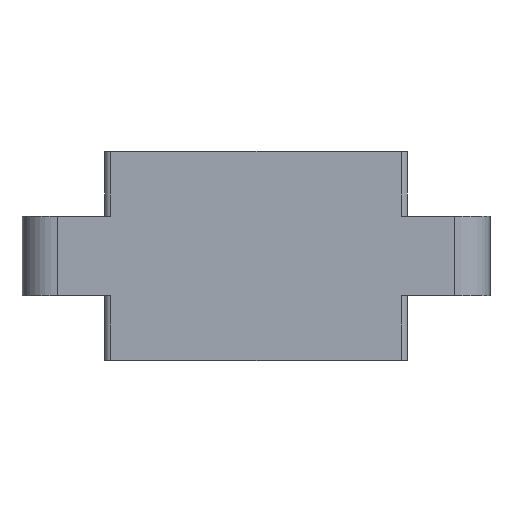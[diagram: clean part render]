
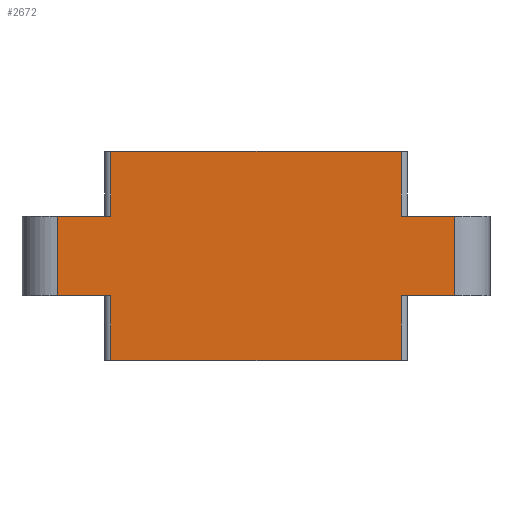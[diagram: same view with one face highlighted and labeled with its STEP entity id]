
A CAD part, top view. The second image highlights one B-rep face of the part: STEP entity #2672.
In plain terms, the highlighted planar face has unit normal (0, 0, 1).
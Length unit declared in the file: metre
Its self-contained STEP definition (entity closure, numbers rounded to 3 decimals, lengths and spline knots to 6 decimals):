
#25=CARTESIAN_POINT('',(0.007768,0.002636,0.02415));
#26=VERTEX_POINT('',#25);
#44=CARTESIAN_POINT('',(0.007768,0.005736,0.02415));
#45=VERTEX_POINT('',#44);
#48=CARTESIAN_POINT('',(0.007768,-0.001164,0.02415));
#49=DIRECTION('',(0.,1.,0.));
#50=VECTOR('',#49,1.);
#51=LINE('',#48,#50);
#52=EDGE_CURVE('',#26,#45,#51,.T.);
#192=CARTESIAN_POINT('',(0.000818,0.002636,0.02415));
#193=DIRECTION('',(1.,0.,0.));
#194=VECTOR('',#193,1.);
#195=LINE('',#192,#194);
#196=CARTESIAN_POINT('',(0.010318,0.002636,0.02415));
#197=VERTEX_POINT('',#196);
#198=EDGE_CURVE('',#26,#197,#195,.T.);
#337=CARTESIAN_POINT('',(0.010318,-0.001164,0.02415));
#338=VERTEX_POINT('',#337);
#341=CARTESIAN_POINT('',(0.000818,-0.001164,0.02415));
#342=DIRECTION('',(1.,0.,0.));
#343=VECTOR('',#342,1.);
#344=LINE('',#341,#343);
#345=CARTESIAN_POINT('',(0.007768,-0.001164,0.02415));
#346=VERTEX_POINT('',#345);
#347=EDGE_CURVE('',#346,#338,#344,.T.);
#2158=CARTESIAN_POINT('',(-0.008682,0.002636,0.02415));
#2159=VERTEX_POINT('',#2158);
#2162=CARTESIAN_POINT('',(-0.006132,0.002636,0.02415));
#2163=DIRECTION('',(1.,0.,0.));
#2164=VECTOR('',#2163,1.);
#2165=LINE('',#2162,#2164);
#2166=CARTESIAN_POINT('',(-0.006132,0.002636,0.02415));
#2167=VERTEX_POINT('',#2166);
#2168=EDGE_CURVE('',#2159,#2167,#2165,.T.);
#2420=CARTESIAN_POINT('',(-0.006132,-0.001164,0.02415));
#2421=VERTEX_POINT('',#2420);
#2424=CARTESIAN_POINT('',(-0.006132,-0.001164,0.02415));
#2425=DIRECTION('',(1.,0.,0.));
#2426=VECTOR('',#2425,1.);
#2427=LINE('',#2424,#2426);
#2428=CARTESIAN_POINT('',(-0.008682,-0.001164,0.02415));
#2429=VERTEX_POINT('',#2428);
#2430=EDGE_CURVE('',#2429,#2421,#2427,.T.);
#2606=CARTESIAN_POINT('',(-0.008682,0.002636,0.02415));
#2607=DIRECTION('',(0.,-1.,0.));
#2608=VECTOR('',#2607,1.);
#2609=LINE('',#2606,#2608);
#2610=EDGE_CURVE('',#2159,#2429,#2609,.T.);
#2625=CARTESIAN_POINT('',(0.000818,0.000736,0.02415));
#2626=DIRECTION('',(0.,0.,1.));
#2627=DIRECTION('',(1.,0.,0.));
#2628=AXIS2_PLACEMENT_3D('',#2625,#2626,#2627);
#2629=PLANE('',#2628);
#2630=CARTESIAN_POINT('',(-0.006132,0.002636,0.02415));
#2631=DIRECTION('',(0.,-1.,0.));
#2632=VECTOR('',#2631,1.);
#2633=LINE('',#2630,#2632);
#2634=CARTESIAN_POINT('',(-0.006132,0.005736,0.02415));
#2635=VERTEX_POINT('',#2634);
#2636=EDGE_CURVE('',#2635,#2167,#2633,.T.);
#2637=ORIENTED_EDGE('',*,*,#2636,.T.);
#2638=ORIENTED_EDGE('',*,*,#2168,.F.);
#2639=ORIENTED_EDGE('',*,*,#2610,.T.);
#2640=ORIENTED_EDGE('',*,*,#2430,.T.);
#2641=CARTESIAN_POINT('',(-0.006132,-0.004264,0.02415));
#2642=VERTEX_POINT('',#2641);
#2643=EDGE_CURVE('',#2421,#2642,#2633,.T.);
#2644=ORIENTED_EDGE('',*,*,#2643,.T.);
#2645=CARTESIAN_POINT('',(-0.006432,-0.004264,0.02415));
#2646=DIRECTION('',(1.,0.,0.));
#2647=VECTOR('',#2646,1.);
#2648=LINE('',#2645,#2647);
#2649=CARTESIAN_POINT('',(0.007768,-0.004264,0.02415));
#2650=VERTEX_POINT('',#2649);
#2651=EDGE_CURVE('',#2642,#2650,#2648,.T.);
#2652=ORIENTED_EDGE('',*,*,#2651,.T.);
#2653=EDGE_CURVE('',#2650,#346,#51,.T.);
#2654=ORIENTED_EDGE('',*,*,#2653,.T.);
#2655=ORIENTED_EDGE('',*,*,#347,.T.);
#2656=CARTESIAN_POINT('',(0.010318,0.002636,0.02415));
#2657=DIRECTION('',(0.,-1.,0.));
#2658=VECTOR('',#2657,1.);
#2659=LINE('',#2656,#2658);
#2660=EDGE_CURVE('',#197,#338,#2659,.T.);
#2661=ORIENTED_EDGE('',*,*,#2660,.F.);
#2662=ORIENTED_EDGE('',*,*,#198,.F.);
#2663=ORIENTED_EDGE('',*,*,#52,.T.);
#2664=CARTESIAN_POINT('',(-0.006432,0.005736,0.02415));
#2665=DIRECTION('',(-1.,0.,0.));
#2666=VECTOR('',#2665,1.);
#2667=LINE('',#2664,#2666);
#2668=EDGE_CURVE('',#45,#2635,#2667,.T.);
#2669=ORIENTED_EDGE('',*,*,#2668,.T.);
#2670=EDGE_LOOP('',(#2637,#2638,#2639,#2640,#2644,#2652,#2654,#2655,#2661,#2662,#2663,#2669));
#2671=FACE_BOUND('',#2670,.T.);
#2672=ADVANCED_FACE('',(#2671),#2629,.T.);
